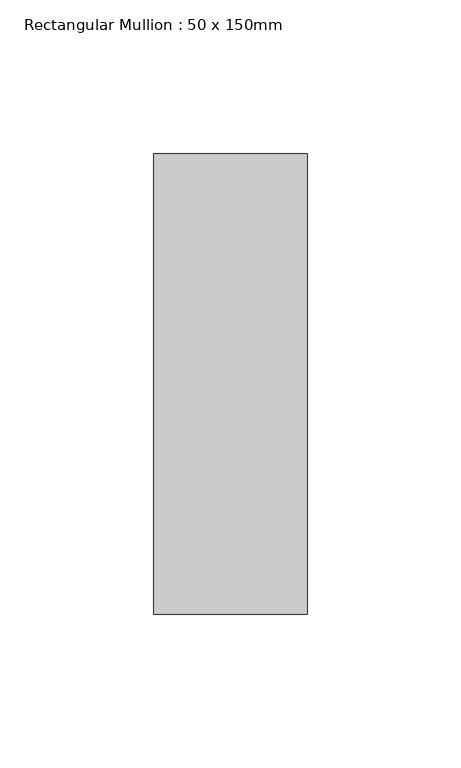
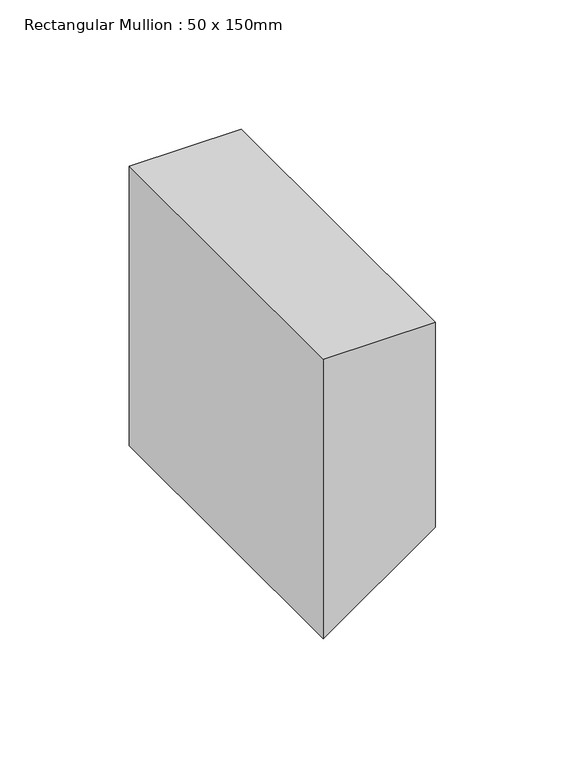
"""IFC4 building model written with IfcOpenShell, lengths in millimetres: member geometry, Rectangular Mullion : 50 x 150mm."""

from ifc_helpers import new_model, si_unit, frame, origin, place, context, project, spatial, polyline, outline, extrude, source, transform, mapped, element, save


def rectangular_mullion_50_x_150mm_88eeb932(model_context):
    return source(origin(), model_context, "Body", "SweptSolid", [
        extrude(outline(polyline([(0.0, 25.0), (0.0, -25.0), (-131.9837975, -25.0), (-96.9532964, 25.0), (0.0, 25.0)])), frame((0.0, -75.0, 0.0), z_axis=(0.0, 1.0, 0.0), x_axis=(0.0, 0.0, 1.0)), (0.0, 0.0, 1.0), 150.0),
    ])


if __name__ == "__main__":
    model = new_model("IFC4")
    model_context = context("Model", 3, world=origin())
    ifc_project = project(units=[si_unit("LENGTHUNIT", "METRE", prefix="MILLI")], contexts=[model_context])
    site = spatial("IfcSite", under=ifc_project)
    building = spatial("IfcBuilding", under=site)
    placement = place(None, origin())
    rectangular_mullion_50_x_150mm_shape = rectangular_mullion_50_x_150mm_88eeb932(model_context)
    element("IfcMember", 1, ObjectType="Rectangular Mullion : 50 x 150mm", at=placement, inside=building, context=model_context, shape_type="MappedRepresentation", body=[
        mapped(rectangular_mullion_50_x_150mm_shape, transform((0.0, 0.0, 0.0), x_axis=(1.0, 0.0, 0.0), y_axis=(0.0, 1.0, 0.0), z_axis=(0.0, 0.0, 1.0))),
    ])
    save(model, "model.ifc")
